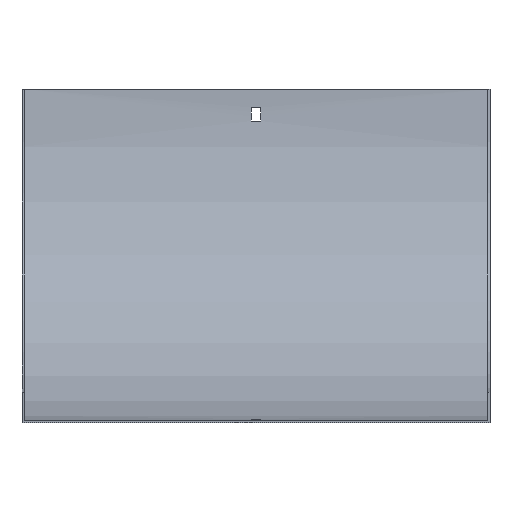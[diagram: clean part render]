
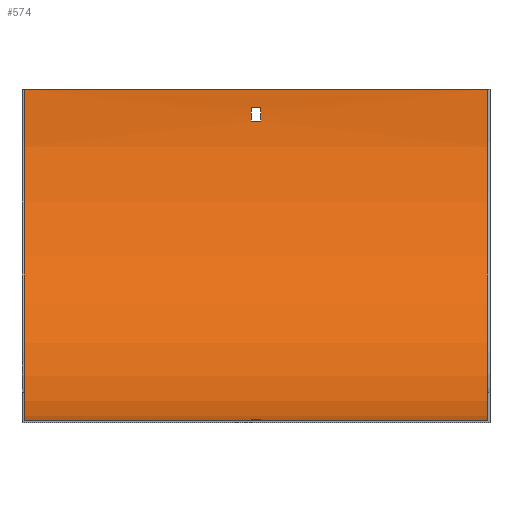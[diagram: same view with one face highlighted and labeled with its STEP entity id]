
A CAD part, front view. The second image highlights one B-rep face of the part: STEP entity #574.
In plain terms, the highlighted cylindrical face has radius 217.5 mm (diameter 435 mm), a partial arc.
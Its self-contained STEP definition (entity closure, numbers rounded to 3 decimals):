
#4 = DIRECTION ( 'NONE',  ( 0., 0., 1. ) ) ;
#5 = VERTEX_POINT ( 'NONE', #18 ) ;
#9 = DIRECTION ( 'NONE',  ( 0., 0., 1. ) ) ;
#18 = CARTESIAN_POINT ( 'NONE',  ( -3.25, -207., -217.169 ) ) ;
#26 = DIRECTION ( 'NONE',  ( 0., 0., -1. ) ) ;
#29 = EDGE_CURVE ( 'NONE', #291, #479, #541, .T. ) ;
#30 = DIRECTION ( 'NONE',  ( 0., 0., 1. ) ) ;
#34 = AXIS2_PLACEMENT_3D ( 'NONE', #377, #142, #4 ) ;
#37 = CIRCLE ( 'NONE', #287, 217.5 ) ;
#44 = DIRECTION ( 'NONE',  ( -1., 0., 0. ) ) ;
#51 = DIRECTION ( 'NONE',  ( -1., 0., 0. ) ) ;
#53 = ORIENTED_EDGE ( 'NONE', *, *, #148, .F. ) ;
#54 = CARTESIAN_POINT ( 'NONE',  ( 153.5, -219., 0. ) ) ;
#66 = EDGE_CURVE ( 'NONE', #530, #110, #37, .T. ) ;
#85 = AXIS2_PLACEMENT_3D ( 'NONE', #483, #428, #26 ) ;
#89 = LINE ( 'NONE', #269, #187 ) ;
#96 = ORIENTED_EDGE ( 'NONE', *, *, #181, .F. ) ;
#97 = ORIENTED_EDGE ( 'NONE', *, *, #526, .T. ) ;
#105 = ORIENTED_EDGE ( 'NONE', *, *, #188, .T. ) ;
#110 = VERTEX_POINT ( 'NONE', #259 ) ;
#126 = DIRECTION ( 'NONE',  ( 1., 0., 0. ) ) ;
#134 = DIRECTION ( 'NONE',  ( -1., 0., 0. ) ) ;
#135 = ORIENTED_EDGE ( 'NONE', *, *, #66, .T. ) ;
#139 = VECTOR ( 'NONE', #547, 1000. ) ;
#140 = CARTESIAN_POINT ( 'NONE',  ( 152., -219., -217.5 ) ) ;
#142 = DIRECTION ( 'NONE',  ( -1., 0., 0. ) ) ;
#146 = CARTESIAN_POINT ( 'NONE',  ( -3.25, -198., -216.484 ) ) ;
#148 = EDGE_CURVE ( 'NONE', #336, #376, #274, .T. ) ;
#150 = LINE ( 'NONE', #370, #382 ) ;
#158 = VECTOR ( 'NONE', #367, 1000. ) ;
#170 = EDGE_CURVE ( 'NONE', #437, #5, #89, .T. ) ;
#171 = CARTESIAN_POINT ( 'NONE',  ( 3.25, -2.516, -21. ) ) ;
#176 = LINE ( 'NONE', #365, #139 ) ;
#178 = LINE ( 'NONE', #360, #363 ) ;
#181 = EDGE_CURVE ( 'NONE', #517, #291, #599, .T. ) ;
#187 = VECTOR ( 'NONE', #44, 1000. ) ;
#188 = EDGE_CURVE ( 'NONE', #110, #376, #150, .T. ) ;
#191 = EDGE_CURVE ( 'NONE', #530, #336, #524, .T. ) ;
#197 = CYLINDRICAL_SURFACE ( 'NONE', #246, 217.5 ) ;
#203 = CARTESIAN_POINT ( 'NONE',  ( -152., -1.5, 0. ) ) ;
#212 = CARTESIAN_POINT ( 'NONE',  ( 152., -219., 0. ) ) ;
#220 = CARTESIAN_POINT ( 'NONE',  ( 152., -219., -217.5 ) ) ;
#225 = DIRECTION ( 'NONE',  ( 1., 0., 0. ) ) ;
#231 = ORIENTED_EDGE ( 'NONE', *, *, #170, .T. ) ;
#242 = EDGE_CURVE ( 'NONE', #324, #437, #325, .T. ) ;
#246 = AXIS2_PLACEMENT_3D ( 'NONE', #54, #51, #9 ) ;
#259 = CARTESIAN_POINT ( 'NONE',  ( 152., -1.5, 0. ) ) ;
#265 = CARTESIAN_POINT ( 'NONE',  ( 3.25, -207., -217.169 ) ) ;
#267 = VERTEX_POINT ( 'NONE', #146 ) ;
#269 = CARTESIAN_POINT ( 'NONE',  ( 153.5, -207., -217.169 ) ) ;
#270 = FACE_OUTER_BOUND ( 'NONE', #528, .T. ) ;
#274 = CIRCLE ( 'NONE', #531, 217.5 ) ;
#282 = ORIENTED_EDGE ( 'NONE', *, *, #333, .F. ) ;
#287 = AXIS2_PLACEMENT_3D ( 'NONE', #212, #225, #543 ) ;
#291 = VERTEX_POINT ( 'NONE', #426 ) ;
#294 = CARTESIAN_POINT ( 'NONE',  ( 3.25, -198., -216.484 ) ) ;
#310 = CARTESIAN_POINT ( 'NONE',  ( -152., -219., 0. ) ) ;
#319 = DIRECTION ( 'NONE',  ( 1., 0., 0. ) ) ;
#323 = AXIS2_PLACEMENT_3D ( 'NONE', #555, #134, #30 ) ;
#324 = VERTEX_POINT ( 'NONE', #294 ) ;
#325 = CIRCLE ( 'NONE', #34, 217.5 ) ;
#329 = EDGE_LOOP ( 'NONE', ( #96, #573, #282, #481 ) ) ;
#333 = EDGE_CURVE ( 'NONE', #479, #557, #461, .T. ) ;
#336 = VERTEX_POINT ( 'NONE', #383 ) ;
#341 = DIRECTION ( 'NONE',  ( 1., 0., 0. ) ) ;
#360 = CARTESIAN_POINT ( 'NONE',  ( 153.5, -198., -216.484 ) ) ;
#363 = VECTOR ( 'NONE', #126, 1000. ) ;
#365 = CARTESIAN_POINT ( 'NONE',  ( 153.5, -1.831, -12. ) ) ;
#367 = DIRECTION ( 'NONE',  ( -1., 0., 0. ) ) ;
#370 = CARTESIAN_POINT ( 'NONE',  ( 152., -1.5, 0. ) ) ;
#372 = AXIS2_PLACEMENT_3D ( 'NONE', #540, #391, #388 ) ;
#376 = VERTEX_POINT ( 'NONE', #203 ) ;
#377 = CARTESIAN_POINT ( 'NONE',  ( 3.25, -219., 0. ) ) ;
#382 = VECTOR ( 'NONE', #606, 1000. ) ;
#383 = CARTESIAN_POINT ( 'NONE',  ( -152., -219., -217.5 ) ) ;
#384 = CARTESIAN_POINT ( 'NONE',  ( 153.5, -2.516, -21. ) ) ;
#388 = DIRECTION ( 'NONE',  ( 0., 0., -1. ) ) ;
#391 = DIRECTION ( 'NONE',  ( 1., 0., 0. ) ) ;
#400 = CIRCLE ( 'NONE', #85, 217.5 ) ;
#402 = EDGE_CURVE ( 'NONE', #5, #267, #400, .T. ) ;
#419 = ORIENTED_EDGE ( 'NONE', *, *, #402, .T. ) ;
#426 = CARTESIAN_POINT ( 'NONE',  ( -3.25, -2.516, -21. ) ) ;
#428 = DIRECTION ( 'NONE',  ( 1., 0., 0. ) ) ;
#437 = VERTEX_POINT ( 'NONE', #265 ) ;
#443 = VECTOR ( 'NONE', #341, 1000. ) ;
#461 = CIRCLE ( 'NONE', #372, 217.5 ) ;
#477 = ORIENTED_EDGE ( 'NONE', *, *, #242, .T. ) ;
#479 = VERTEX_POINT ( 'NONE', #171 ) ;
#481 = ORIENTED_EDGE ( 'NONE', *, *, #29, .F. ) ;
#483 = CARTESIAN_POINT ( 'NONE',  ( -3.25, -219., 0. ) ) ;
#484 = ORIENTED_EDGE ( 'NONE', *, *, #191, .F. ) ;
#490 = EDGE_CURVE ( 'NONE', #557, #517, #176, .T. ) ;
#494 = CARTESIAN_POINT ( 'NONE',  ( 3.25, -1.831, -12. ) ) ;
#497 = DIRECTION ( 'NONE',  ( 0., 0., 1. ) ) ;
#516 = FACE_BOUND ( 'NONE', #534, .T. ) ;
#517 = VERTEX_POINT ( 'NONE', #593 ) ;
#524 = LINE ( 'NONE', #140, #158 ) ;
#526 = EDGE_CURVE ( 'NONE', #267, #324, #178, .T. ) ;
#528 = EDGE_LOOP ( 'NONE', ( #53, #484, #135, #105 ) ) ;
#530 = VERTEX_POINT ( 'NONE', #220 ) ;
#531 = AXIS2_PLACEMENT_3D ( 'NONE', #310, #319, #497 ) ;
#534 = EDGE_LOOP ( 'NONE', ( #231, #419, #97, #477 ) ) ;
#540 = CARTESIAN_POINT ( 'NONE',  ( 3.25, -219., 0. ) ) ;
#541 = LINE ( 'NONE', #384, #443 ) ;
#543 = DIRECTION ( 'NONE',  ( 0., 0., 1. ) ) ;
#547 = DIRECTION ( 'NONE',  ( -1., 0., 0. ) ) ;
#555 = CARTESIAN_POINT ( 'NONE',  ( -3.25, -219., 0. ) ) ;
#557 = VERTEX_POINT ( 'NONE', #494 ) ;
#573 = ORIENTED_EDGE ( 'NONE', *, *, #490, .F. ) ;
#574 = ADVANCED_FACE ( 'NONE', ( #597, #270, #516 ), #197, .F. ) ;
#593 = CARTESIAN_POINT ( 'NONE',  ( -3.25, -1.831, -12. ) ) ;
#597 = FACE_BOUND ( 'NONE', #329, .T. ) ;
#599 = CIRCLE ( 'NONE', #323, 217.5 ) ;
#606 = DIRECTION ( 'NONE',  ( -1., 0., 0. ) ) ;
